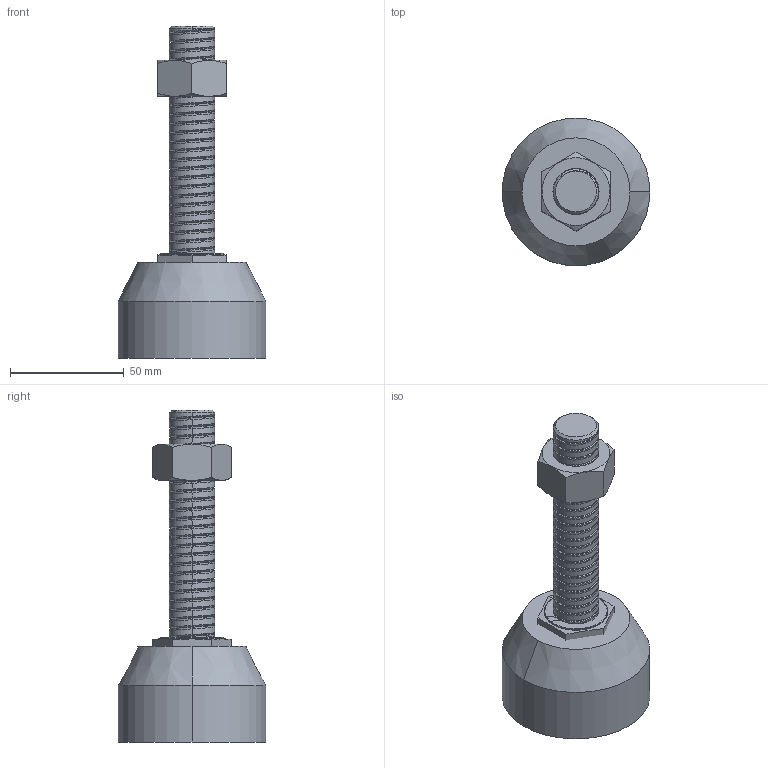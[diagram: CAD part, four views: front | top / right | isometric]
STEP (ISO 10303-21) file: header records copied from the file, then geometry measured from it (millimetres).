
FILE_DESCRIPTION (( 'STEP AP203' ), '1' );
FILE_NAME ('FS-101-3-20-L.STEP', '2015-11-23T03:15:49', ( '' ), ( '' ), 'SwSTEP 2.0', 'SolidWorks 2014', '' );
FILE_SCHEMA (( 'CONFIG_CONTROL_DESIGN' ));
Length unit declared in the file: millimetre
Products named in the file (4): DT-M20X100L-12調整螺絲-1; FS-101-3-20-L; FS-101-3-20-L圓腳座; M20螺帽-1
Assembly tree (3 placements, depth 2):
  FS-101-3-20-L
    FS-101-3-20-L圓腳座
    M20螺帽-1
    DT-M20X100L-12調整螺絲-1
Bounding box: 65 x 65 x 146 mm (x, y, z)
Volume: 177701.6 mm3; surface area: 33224.7 mm2
Topology: 3 solids, 3 shells, 159 faces, 407 edges, 259 vertices
Faces by surface type: cylinder 76, cone 49, plane 24, bspline 10
Entity records: 13295 total; most frequent: CARTESIAN_POINT 9388, ORIENTED_EDGE 814, DIRECTION 678, EDGE_CURVE 407, AXIS2_PLACEMENT_3D 270, VERTEX_POINT 259, EDGE_LOOP 166, FACE_OUTER_BOUND 159
